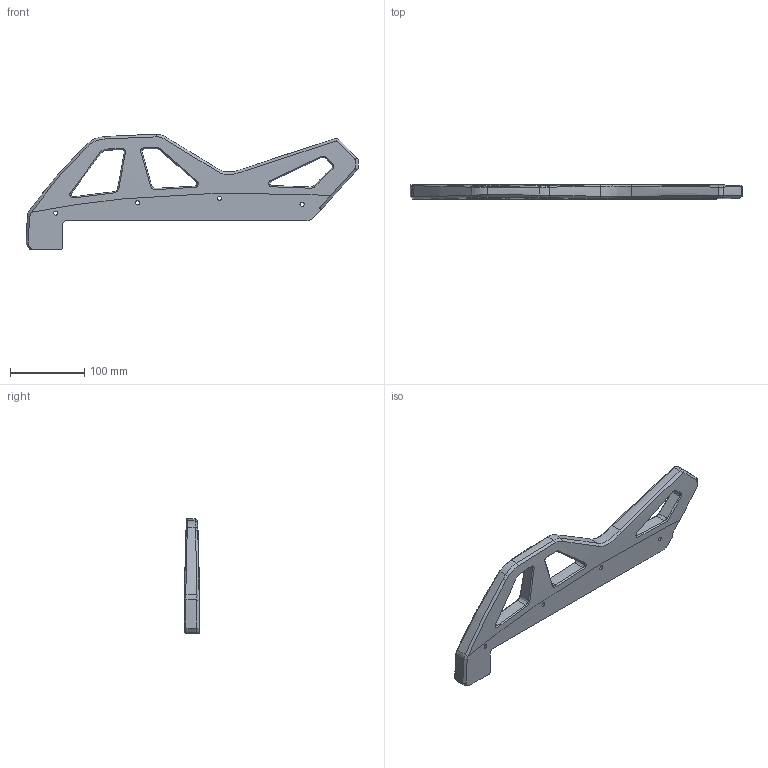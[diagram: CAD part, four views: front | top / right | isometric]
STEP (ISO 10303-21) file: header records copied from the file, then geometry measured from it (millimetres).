
FILE_DESCRIPTION(/* description */ ('Generated from Alias Stage'),/* implementation_level */ '2;1');
FILE_NAME(/* name */ 'GuitarWing',/* time_stamp */ '2012-06-04T04:32:21-07:00',/* author */ (''),/* organization */ ('Alias Systems'),/* preprocessor_version */ 'ST-DEVELOPER v12',/* originating_system */ 'Autodesk OpenModel 2011',/* authorisation */ '');
FILE_SCHEMA (('AUTOMOTIVE_DESIGN { 1 2 10303 214 1 1 1 1 }'));
Length unit declared in the file: centimetre
Products named in the file (1): GuitarWing
Bounding box: 446.56 x 19.05 x 154.32 mm (x, y, z)
Surface area: 94764.8 mm2 (no closed solid volume)
Topology: 0 solids, 1 shells, 168 faces, 511 edges, 319 vertices
Faces by surface type: bspline 168
Entity records: 15272 total; most frequent: CARTESIAN_POINT 12913, ORIENTED_EDGE 953, EDGE_CURVE 512, VERTEX_POINT 330, EDGE_LOOP 184, FACE_OUTER_BOUND 169, ADVANCED_FACE 169, FACE_BOUND 15
